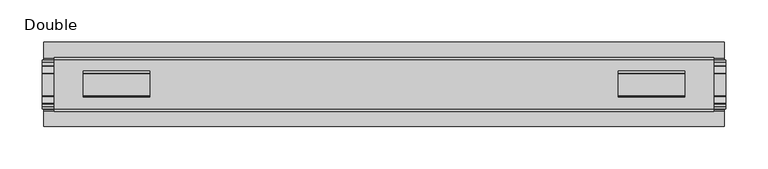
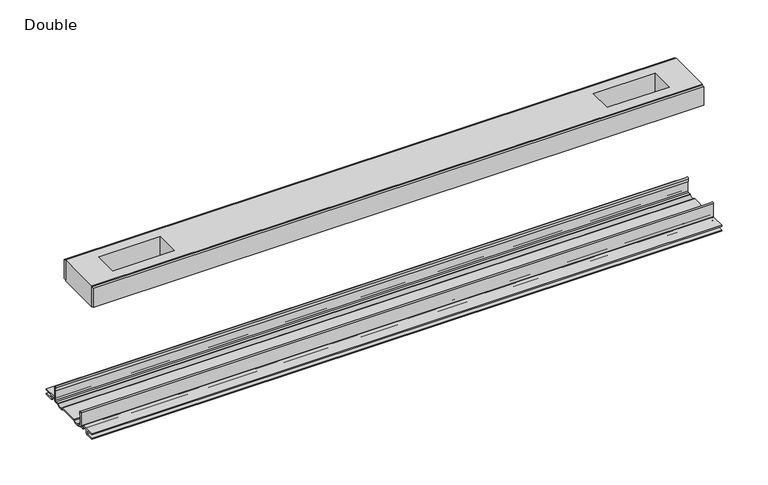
"""IFC4 building model written with IfcOpenShell, lengths in millimetres: proxy geometry, Frame-Teknion-FHCRA-Horizontal_Rail-R2022 : Double."""

import ifcopenshell
import ifcopenshell.guid

model = None  # the IFC model being written
_history = None  # IfcOwnerHistory: only IFC2X3 demands one
_inside = {}  # id of a spatial element -> (the spatial element, [elements in it])
_under = {}  # id of a project, library or spatial element -> (it, [spatial elements below it])
_declared = {}  # id of a project -> (the project, [libraries it declares])
_typed = {}  # id of a type object -> (the type object, [elements of that type])
_made_of = {}  # id of a material, layer set ... -> (it, [elements and type objects made of it])


def new_model(schema):
    """Start an empty IFC model of exactly this schema.

    Asked for "IFC4X3", IfcOpenShell would pick the latest addendum, in which some entities
    have other attributes; the version numbers below select the first issue.
    IFC2X3 requires an IfcOwnerHistory on every rooted entity: one is made here for all.
    """
    global model, _history
    if schema == "IFC4X3":
        model = ifcopenshell.file(schema_version=(4, 3, 0, 0))
    else:
        model = ifcopenshell.file(schema=schema)
    _inside.clear()
    _under.clear()
    _declared.clear()
    _typed.clear()
    _made_of.clear()
    _history = None
    if model.schema == "IFC2X3":
        org = make("IfcOrganization", Name="unknown")
        user = make(
            "IfcPersonAndOrganization",
            ThePerson=make("IfcPerson", FamilyName="unknown"),
            TheOrganization=org,
        )
        app = make(
            "IfcApplication",
            ApplicationDeveloper=org,
            Version="unknown",
            ApplicationFullName="unknown",
            ApplicationIdentifier="unknown",
        )
        _history = make(
            "IfcOwnerHistory",
            OwningUser=user,
            OwningApplication=app,
            ChangeAction="ADDED",
            CreationDate=0,
        )
    return model


def make(cls, **values):
    """One entity of the class cls with the attributes given. An attribute that is None is left unset."""
    return model.create_entity(
        cls, **{name: value for name, value in values.items() if value is not None}
    )


def rooted(cls, **values):
    """An entity with a GlobalId (a new one), such as an element, a storey or a relation."""
    return make(cls, GlobalId=ifcopenshell.guid.new(), OwnerHistory=_history, **values)


def si_unit(unit_type, name, prefix=None):
    """IfcSIUnit, for example si_unit("LENGTHUNIT", "METRE", prefix="MILLI")."""
    return make("IfcSIUnit", UnitType=unit_type, Prefix=prefix, Name=name)


def assignment(units):
    """IfcUnitAssignment: the units of a project."""
    return None if units is None else make("IfcUnitAssignment", Units=units)


def point(xyz):
    """IfcCartesianPoint."""
    return None if xyz is None else make("IfcCartesianPoint", Coordinates=xyz)


def direction(xyz):
    """IfcDirection."""
    return None if xyz is None else make("IfcDirection", DirectionRatios=xyz)


def frame(location, z_axis=None, x_axis=None):
    """IfcAxis2Placement3D, a coordinate frame: its origin and axes. An axis left out is left unset."""
    return make(
        "IfcAxis2Placement3D",
        Location=point(location),
        Axis=direction(z_axis),
        RefDirection=direction(x_axis),
    )


def frame_2d(location, x_axis=None):
    """IfcAxis2Placement2D, a coordinate frame in the plane: its origin and x axis."""
    return make(
        "IfcAxis2Placement2D", Location=point(location), RefDirection=direction(x_axis)
    )


def origin():
    """The frame at (0, 0, 0) with its axes left unset."""
    return frame((0.0, 0.0, 0.0))


def place(relative_to, where):
    """IfcLocalPlacement: puts the frame where relative to a parent placement (None: the world)."""
    return make(
        "IfcLocalPlacement", PlacementRelTo=relative_to, RelativePlacement=where
    )


def context(
    kind, dimensions, precision=None, world=None, true_north=None, identifier=None
):
    """IfcGeometricRepresentationContext, for example the 3D "Model" context."""
    return make(
        "IfcGeometricRepresentationContext",
        ContextIdentifier=identifier,
        ContextType=kind,
        CoordinateSpaceDimension=dimensions,
        Precision=precision,
        WorldCoordinateSystem=world,
        TrueNorth=true_north,
    )


def project(units=None, contexts=None):
    """IfcProject with its units and contexts."""
    return rooted(
        "IfcProject",
        Name="project",
        RepresentationContexts=contexts,
        UnitsInContext=assignment(units),
    )


def spatial(cls, under=None, at=None, **own):
    """A site, building, storey or space (cls), placed at a placement, below another one or the project."""
    s = rooted(cls, ObjectPlacement=at, **own)
    if under is not None:
        _under.setdefault(under.id(), (under, []))[1].append(s)
    return s


def polyline(points):
    """IfcPolyline through the points."""
    return make("IfcPolyline", Points=[point(p) for p in points])


def circle_curve(where, radius):
    """IfcCircle in the frame where."""
    return make("IfcCircle", Position=where, Radius=radius)


def trimmed(basis, trim1, trim2, sense, master):
    """IfcTrimmedCurve: the piece of a basis curve between two trims."""
    return make(
        "IfcTrimmedCurve",
        BasisCurve=basis,
        Trim1=trim1,
        Trim2=trim2,
        SenseAgreement=sense,
        MasterRepresentation=master,
    )


def segment(curve, same_sense, transition):
    """IfcCompositeCurveSegment."""
    return make(
        "IfcCompositeCurveSegment",
        Transition=transition,
        SameSense=same_sense,
        ParentCurve=curve,
    )


def composite_curve(segments, self_intersect=None):
    """IfcCompositeCurve: segments joined end to end."""
    return make("IfcCompositeCurve", Segments=segments, SelfIntersect=self_intersect)


def outline(outer, holes=None, kind="AREA"):
    """IfcArbitraryClosedProfileDef: a profile drawn as a closed curve; with holes, ...WithVoids."""
    if holes is None:
        return make("IfcArbitraryClosedProfileDef", ProfileType=kind, OuterCurve=outer)
    return make(
        "IfcArbitraryProfileDefWithVoids",
        ProfileType=kind,
        OuterCurve=outer,
        InnerCurves=holes,
    )


def extrude(swept, where, along, depth):
    """IfcExtrudedAreaSolid: the profile swept, set in the frame where, extruded along a direction by depth."""
    return make(
        "IfcExtrudedAreaSolid",
        SweptArea=swept,
        Position=where,
        ExtrudedDirection=direction(along),
        Depth=depth,
    )


def shape(context_of_items, identifier, shape_type, items):
    """IfcShapeRepresentation: the items that make up one representation, for example the "Body"."""
    return make(
        "IfcShapeRepresentation",
        ContextOfItems=context_of_items,
        RepresentationIdentifier=identifier,
        RepresentationType=shape_type,
        Items=items,
    )


def source(mapping_origin, context_of_items, identifier, shape_type, items):
    """IfcRepresentationMap: a shape defined once, which mapped items show again and again."""
    return make(
        "IfcRepresentationMap",
        MappingOrigin=mapping_origin,
        MappedRepresentation=shape(context_of_items, identifier, shape_type, items),
    )


def transform(
    local_origin,
    x_axis=None,
    y_axis=None,
    z_axis=None,
    scale=None,
    scale2=None,
    scale3=None,
    uniform=True,
):
    """IfcCartesianTransformationOperator3D, or its non-uniform kind. x_axis, y_axis, z_axis: its Axis1, 2, 3."""
    if uniform:
        return make(
            "IfcCartesianTransformationOperator3D",
            Axis1=direction(x_axis),
            Axis2=direction(y_axis),
            LocalOrigin=point(local_origin),
            Scale=scale,
            Axis3=direction(z_axis),
        )
    return make(
        "IfcCartesianTransformationOperator3DnonUniform",
        Axis1=direction(x_axis),
        Axis2=direction(y_axis),
        LocalOrigin=point(local_origin),
        Scale=scale,
        Axis3=direction(z_axis),
        Scale2=scale2,
        Scale3=scale3,
    )


def mapped(mapping_source, mapping_target):
    """IfcMappedItem: shows the shape of a source again, moved by a transform."""
    return make(
        "IfcMappedItem", MappingSource=mapping_source, MappingTarget=mapping_target
    )


def made_of(thing, what):
    """Note that an element or type object is made of a material, layer set ...; save() writes the relation."""
    if what is not None:
        _made_of.setdefault(what.id(), (what, []))[1].append(thing)
    return thing


def element(
    cls,
    number,
    at=None,
    inside=None,
    cuts=None,
    type_object=None,
    material=None,
    context=None,
    identifier="Body",
    shape_type=None,
    held_by="IfcProductDefinitionShape",
    body=None,
    shapes=None,
    **own,
):
    """One element of the class cls, such as IfcWall. Its Tag is "e" and its number.

    at: its placement. inside: the storey or other place that contains it. cuts: it is an
    opening in that element (IfcRelVoidsElement). A single representation is given by context,
    identifier, shape_type and body (its items); several are given by shapes. held_by: the class
    of the entity that holds the representations. save() writes the other relations.
    """
    e = rooted(cls, Tag="e%d" % number, ObjectPlacement=at, **own)
    if body is not None:
        shapes = [shape(context, identifier, shape_type, body)]
    if shapes is not None:
        e.Representation = make(held_by, Representations=shapes)
    if inside is not None:
        _inside.setdefault(inside.id(), (inside, []))[1].append(e)
    if cuts is not None:
        rooted(
            "IfcRelVoidsElement", RelatingBuildingElement=cuts, RelatedOpeningElement=e
        )
    if type_object is not None:
        _typed.setdefault(type_object.id(), (type_object, []))[1].append(e)
    return made_of(e, material)


def aggregate(whole, parts):
    """IfcRelAggregates: a whole, such as a stair, and the parts it consists of."""
    return rooted("IfcRelAggregates", RelatingObject=whole, RelatedObjects=parts)


def save(model, path):
    """Write the relations noted so far, then the file.

    IfcRelAggregates (storeys below a building ...), IfcRelContainedInSpatialStructure (elements
    in a storey), IfcRelDefinesByType, IfcRelAssociatesMaterial and IfcRelDeclares: one each for
    every whole, place, type object, material and project.
    """
    for whole, parts in _under.values():
        aggregate(whole, parts)
    for where, things in _inside.values():
        rooted(
            "IfcRelContainedInSpatialStructure",
            RelatedElements=things,
            RelatingStructure=where,
        )
    for kind, things in _typed.values():
        rooted("IfcRelDefinesByType", RelatedObjects=things, RelatingType=kind)
    for what, things in _made_of.values():
        rooted("IfcRelAssociatesMaterial", RelatedObjects=things, RelatingMaterial=what)
    for by, libraries in _declared.values():
        rooted("IfcRelDeclares", RelatingContext=by, RelatedDefinitions=libraries)
    model.write(path)


def double_7a572fdc(model_context):
    return source(origin(), model_context, "Body", "SweptSolid", [
        extrude(outline(polyline([(390.4615091, 29.0068005), (-390.4615091, 29.0068005), (-390.4615091, 32.1817997), (390.4615091, 32.1817997), (390.4615091, 29.0068005)])), frame((0.0, 0.0, 149.8401622), z_axis=(0.0, 0.0, 1.0), x_axis=(1.0, 0.0, 0.0)), (0.0, 0.0, 1.0), 25.3999939),
        extrude(outline(polyline([(390.4615091, -32.1817997), (-390.4615091, -32.1817997), (-390.4615091, -29.0068005), (390.4615091, -29.0068005), (390.4615091, -32.1817997)])), frame((0.0, 0.0, 149.8401622), z_axis=(0.0, 0.0, 1.0), x_axis=(1.0, 0.0, 0.0)), (0.0, 0.0, 1.0), 25.3999939),
        extrude(outline(polyline([(390.4615091, -29.0068005), (-390.4615091, -29.0068005), (-390.4615091, 29.0068005), (390.4615091, 29.0068005), (390.4615091, -29.0068005)]), holes=[polyline([(356.0444965, -15.1130038), (356.0444965, 15.875003), (276.9996847, 15.875003), (276.9996847, -15.1130038), (356.0444965, -15.1130038)]), polyline([(-356.0444965, -15.1130038), (-276.9996847, -15.1130038), (-276.9996847, 15.875003), (-356.0444965, 15.875003), (-356.0444965, -15.1130038)])]), frame((0.0, 0.0, 148.4185847), z_axis=(0.0, 0.0, 1.0), x_axis=(1.0, 0.0, 0.0)), (0.0, 0.0, 1.0), 27.9999988),
        extrude(outline(composite_curve([segment(trimmed(circle_curve(frame_2d((26.6420561, -7.7516037)), 2.17424), [point((28.8162961, -7.7516037))], [point((26.6420561, -9.9258438))], False, "CARTESIAN"), True, "CONTINUOUS"), segment(polyline([(26.6420561, -9.9258438), (22.3510694, -9.9258438)]), True, "CONTINUOUS"), segment(trimmed(circle_curve(frame_2d((17.7706549, -6.4800016)), 5.7318431), [point((22.3510694, -9.9258438))], [point((13.1902404, -9.9258438))], False, "CARTESIAN"), True, "CONTINUOUS"), segment(polyline([(13.1902404, -9.9258438), (-13.57124, -9.9258438)]), True, "CONTINUOUS"), segment(trimmed(circle_curve(frame_2d((-18.1516545, -6.4800016)), 5.7318431), [point((-13.57124, -9.9258438))], [point((-22.732069, -9.9258438))], False, "CARTESIAN"), True, "CONTINUOUS"), segment(polyline([(-22.732069, -9.9258438), (-27.0230557, -9.9258438)]), True, "CONTINUOUS"), segment(trimmed(circle_curve(frame_2d((-27.0230557, -7.7516037)), 2.17424), [point((-27.0230557, -9.9258438))], [point((-29.1972958, -7.7516037))], False, "CARTESIAN"), True, "CONTINUOUS"), segment(polyline([(-29.1972958, -7.7516037), (-29.1972958, 9.8607558)]), True, "CONTINUOUS"), segment(trimmed(circle_curve(frame_2d((-27.9780978, 9.8607558)), 1.2191979), [point((-29.1972958, 9.8607558))], [point((-26.7588999, 9.8607558))], False, "CARTESIAN"), True, "CONTINUOUS"), segment(polyline([(-26.7588999, 9.8607558), (-26.7588999, 5.9999563), (-28.0390765, 5.9999563), (-28.0390765, -7.7516037)]), True, "CONTINUOUS"), segment(trimmed(circle_curve(frame_2d((-27.0230557, -7.7516037)), 1.0160208), [point((-28.0390765, -7.7516037))], [point((-27.0295728, -8.7676036))], True, "CARTESIAN"), True, "CONTINUOUS"), segment(polyline([(-27.0295728, -8.7676036), (-23.0866222, -8.7676036), (-22.1732605, -8.968753)]), True, "CONTINUOUS"), segment(trimmed(circle_curve(frame_2d((-18.1483018, -6.1259382)), 4.9276657), [point((-22.1732605, -8.968753))], [point((-14.123343, -8.968753))], True, "CARTESIAN"), True, "CONTINUOUS"), segment(polyline([(-14.123343, -8.968753), (-13.2099722, -8.7676036), (12.8289726, -8.7676036), (13.7423434, -8.968753)]), True, "CONTINUOUS"), segment(trimmed(circle_curve(frame_2d((17.7673021, -6.1259382)), 4.9276657), [point((13.7423434, -8.968753))], [point((21.7922609, -8.968753))], True, "CARTESIAN"), True, "CONTINUOUS"), segment(polyline([(21.7922609, -8.968753), (22.7056226, -8.7676036), (26.6485732, -8.7676036)]), True, "CONTINUOUS"), segment(trimmed(circle_curve(frame_2d((26.6420561, -7.7516037)), 1.0160208), [point((26.6485732, -8.7676036))], [point((27.6580769, -7.7516037))], True, "CARTESIAN"), True, "CONTINUOUS"), segment(polyline([(27.6580769, -7.7516037), (27.6580769, 5.9999563), (26.3779003, 5.9999563), (26.3779003, 9.8607558)]), True, "CONTINUOUS"), segment(trimmed(circle_curve(frame_2d((27.5970982, 9.8607558)), 1.2191979), [point((26.3779003, 9.8607558))], [point((28.8162961, 9.8607558))], False, "CARTESIAN"), True, "CONTINUOUS"), segment(polyline([(28.8162961, 9.8607558), (28.8162961, -7.7516037)]), True, "CONTINUOUS")], self_intersect=False)), frame((-404.5204, 0.0, 0.0), z_axis=(1.0, 0.0, 0.0), x_axis=(0.0, 1.0, 0.0)), (0.0, 0.0, 1.0), 809.0408),
        extrude(outline(composite_curve([segment(polyline([(50.2668422, -13.9898438), (39.6557522, -13.9898438)]), True, "CONTINUOUS"), segment(trimmed(circle_curve(frame_2d((39.6557522, -12.4658438)), 1.524), [point((39.6557522, -13.9898438))], [point((38.1317522, -12.4658438))], False, "CARTESIAN"), True, "CONTINUOUS"), segment(polyline([(38.1317522, -12.4658438), (38.1317522, -7.766844), (31.3054974, -7.766844), (31.3054974, -10.0528438)]), True, "CONTINUOUS"), segment(trimmed(circle_curve(frame_2d((29.7814974, -10.0528438)), 1.524), [point((31.3054974, -10.0528438))], [point((29.7814974, -11.5768438))], False, "CARTESIAN"), True, "CONTINUOUS"), segment(polyline([(29.7814974, -11.5768438), (23.2753553, -11.5768438)]), True, "CONTINUOUS"), segment(trimmed(circle_curve(frame_2d((17.7673021, -6.4968436)), 7.4930002), [point((23.2753553, -11.5768438))], [point((12.5094972, -11.8354331))], False, "CARTESIAN"), True, "CONTINUOUS"), segment(polyline([(12.5094972, -11.8354331), (-12.8904968, -11.8354331)]), True, "CONTINUOUS"), segment(trimmed(circle_curve(frame_2d((-18.1483018, -6.4968436)), 7.4930002), [point((-12.8904968, -11.8354331))], [point((-23.6563549, -11.5768438))], False, "CARTESIAN"), True, "CONTINUOUS"), segment(polyline([(-23.6563549, -11.5768438), (-30.1624971, -11.5768438)]), True, "CONTINUOUS"), segment(trimmed(circle_curve(frame_2d((-30.1624971, -10.0528438)), 1.524), [point((-30.1624971, -11.5768438))], [point((-31.686497, -10.0528438))], False, "CARTESIAN"), True, "CONTINUOUS"), segment(polyline([(-31.686497, -10.0528438), (-31.686497, -7.766844), (-38.5127519, -7.766844), (-38.5127519, -12.4658438)]), True, "CONTINUOUS"), segment(trimmed(circle_curve(frame_2d((-40.0367518, -12.4658438)), 1.524), [point((-38.5127519, -12.4658438))], [point((-40.0367518, -13.9898438))], False, "CARTESIAN"), True, "CONTINUOUS"), segment(polyline([(-40.0367518, -13.9898438), (-50.00625, -13.9898438), (-50.00625, -12.3388438), (-40.1637503, -12.3388438), (-40.1637503, -7.766844), (-50.00625, -7.766844), (-50.00625, -6.1158439), (-31.6239218, -6.1158439)]), True, "CONTINUOUS"), segment(trimmed(circle_curve(frame_2d((-31.6864982, -7.7656583)), 1.6510007), [point((-31.6239218, -6.1158439))], [point((-30.0354975, -7.7656583))], False, "CARTESIAN"), True, "CONTINUOUS"), segment(polyline([(-30.0354975, -7.7656583), (-30.0354975, -9.9258438), (-23.486834, -9.9258438)]), True, "CONTINUOUS"), segment(trimmed(circle_curve(frame_2d((-18.1483018, -5.2268471)), 7.1119966), [point((-23.486834, -9.9258438))], [point((-12.8097695, -9.9258438))], True, "CARTESIAN"), True, "CONTINUOUS"), segment(polyline([(-12.8097695, -9.9258438), (12.4287699, -9.9258438)]), True, "CONTINUOUS"), segment(trimmed(circle_curve(frame_2d((17.7673021, -5.2268471)), 7.1119966), [point((12.4287699, -9.9258438))], [point((23.1058344, -9.9258438))], True, "CARTESIAN"), True, "CONTINUOUS"), segment(polyline([(23.1058344, -9.9258438), (29.6544978, -9.9258438), (29.6544978, -7.6398436)]), True, "CONTINUOUS"), segment(trimmed(circle_curve(frame_2d((31.1784975, -7.6398436)), 1.5239997), [point((29.6544978, -7.6398436))], [point((31.1784975, -6.1158439))], False, "CARTESIAN"), True, "CONTINUOUS"), segment(polyline([(31.1784975, -6.1158439), (50.2668422, -6.1158439), (50.2240211, -7.766844), (39.7827507, -7.766844), (39.7827507, -12.3388438), (50.2240211, -12.3388438), (50.2668422, -13.9898438)]), True, "CONTINUOUS")], self_intersect=False)), frame((-402.8694, 0.0, 0.0), z_axis=(1.0, 0.0, 0.0), x_axis=(0.0, 1.0, 0.0)), (0.0, 0.0, 1.0), 805.7388),
    ])


if __name__ == "__main__":
    model = new_model("IFC4")
    model_context = context("Model", 3, world=origin())
    ifc_project = project(units=[si_unit("LENGTHUNIT", "METRE", prefix="MILLI")], contexts=[model_context])
    site = spatial("IfcSite", under=ifc_project)
    building = spatial("IfcBuilding", under=site)
    placement = place(None, origin())
    double_shape = double_7a572fdc(model_context)
    element("IfcBuildingElementProxy", 1, Name="Frame-Teknion-FHCRA-Horizontal_Rail-R2022 : Double", ObjectType="Frame-Teknion-FHCRA-Horizontal_Rail-R2022 : Double", at=placement, inside=building, context=model_context, shape_type="MappedRepresentation", body=[
        mapped(double_shape, transform((0.0, 0.0, 0.0), x_axis=(1.0, 0.0, 0.0), y_axis=(0.0, 1.0, 0.0), z_axis=(0.0, 0.0, 1.0))),
    ])
    save(model, "model.ifc")
